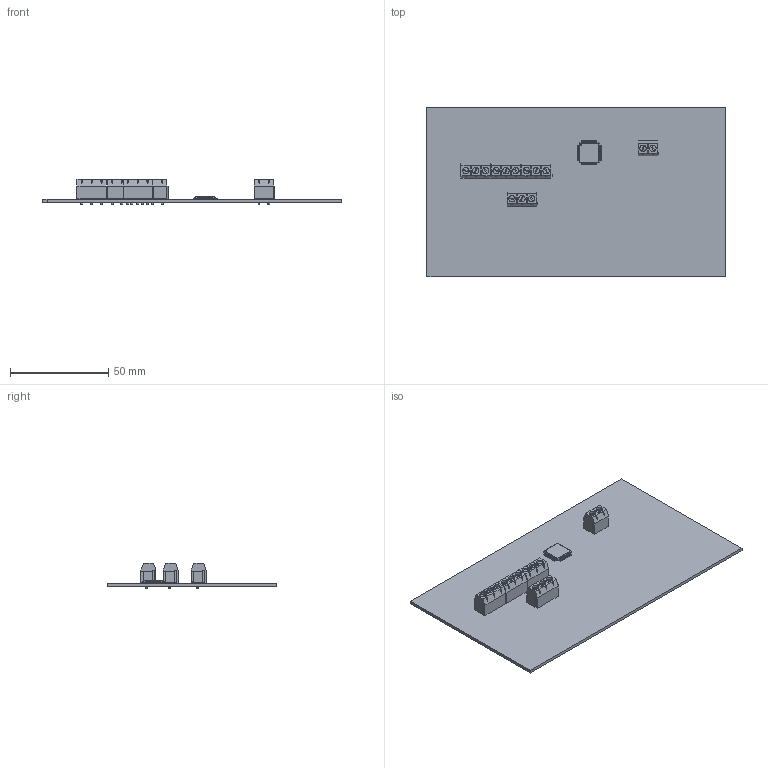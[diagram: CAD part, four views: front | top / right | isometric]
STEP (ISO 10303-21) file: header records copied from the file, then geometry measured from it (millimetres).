
FILE_DESCRIPTION(('KiCad electronic assembly'),'2;1');
FILE_NAME('IO_LINK.step','2021-02-16T15:00:24',('An Author'),( 'A Company'),'Open CASCADE STEP processor 6.9', 'KiCad to STEP converter','Unknown');
FILE_SCHEMA(('AUTOMOTIVE_DESIGN { 1 0 10303 214 1 1 1 1 }'));
Length unit declared in the file: millimetre
Products named in the file (8): Open CASCADE STEP translator 6.9 1; Screw_terminal_2way_5.08; SOLID; LQFP-64_10x10mm_P0.5mm; Screw_terminal_3way_5.08; COMPOUND
Assembly tree (10 placements, depth 3):
  Open CASCADE STEP translator 6.9 1
    Screw_terminal_2way_5.08
      SOLID
    LQFP-64_10x10mm_P0.5mm
      SOLID
    Screw_terminal_3way_5.08  x4
      SOLID
    COMPOUND
Bounding box: 152.4 x 86.36 x 13 mm (x, y, z)
Volume: 25110.7 mm3; surface area: 33149.8 mm2
Topology: 7 solids, 7 shells, 1850 faces, 4980 edges, 3196 vertices
Faces by surface type: plane 1301, cylinder 453, bspline 96
Full cylindrical faces by diameter (mm): 0.5 x1, 1.32 x14
Entity records: 107283 total; most frequent: CARTESIAN_POINT 27408, DIRECTION 13190, LINE 8971, VECTOR 8971, ORIENTED_EDGE 7134, PCURVE 7134, DEFINITIONAL_REPRESENTATION 7134, EDGE_CURVE 3567
